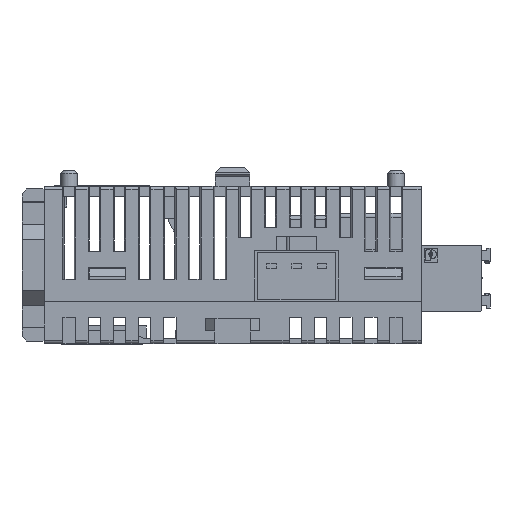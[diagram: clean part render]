
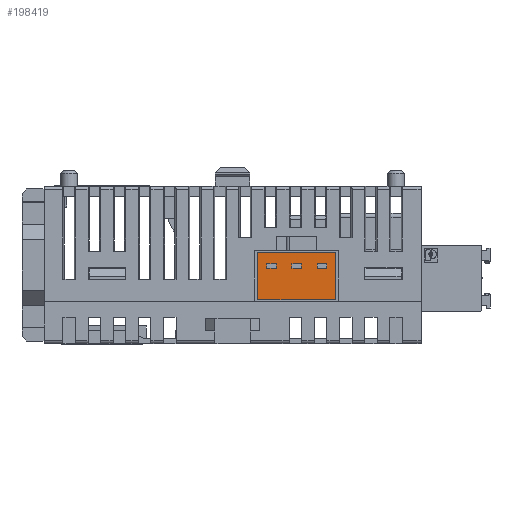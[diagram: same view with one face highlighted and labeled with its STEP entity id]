
A CAD part, front view. The second image highlights one B-rep face of the part: STEP entity #198419.
In plain terms, the highlighted planar face has unit normal (0, -1, 0) as drawn and (0, 0, 1) by its records, which use the part's own axes.
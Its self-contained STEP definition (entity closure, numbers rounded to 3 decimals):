
#1694 = CARTESIAN_POINT ( 'NONE',  ( -0.75, 1.95, 0. ) ) ;
#6795 = CARTESIAN_POINT ( 'NONE',  ( -4.75, 1.95, 0. ) ) ;
#6930 = VECTOR ( 'NONE', #379002, 1000. ) ;
#7046 = CARTESIAN_POINT ( 'NONE',  ( -6.204, 3.75, 0. ) ) ;
#11272 = DIRECTION ( 'NONE',  ( 1., 0., 0. ) ) ;
#13454 = CARTESIAN_POINT ( 'NONE',  ( 4.75, 1.95, 0. ) ) ;
#24417 = EDGE_CURVE ( 'NONE', #105912, #243956, #190857, .T. ) ;
#24770 = DIRECTION ( 'NONE',  ( 0., -1., 0. ) ) ;
#24919 = LINE ( 'NONE', #337857, #300294 ) ;
#25126 = CARTESIAN_POINT ( 'NONE',  ( 3.25, 1.2, 0. ) ) ;
#26129 = DIRECTION ( 'NONE',  ( -1., 0., 0. ) ) ;
#30832 = LINE ( 'NONE', #13454, #65172 ) ;
#42555 = CARTESIAN_POINT ( 'NONE',  ( -4.75, 1.2, 0. ) ) ;
#43933 = DIRECTION ( 'NONE',  ( 1., 0., 0. ) ) ;
#48854 = FACE_BOUND ( 'NONE', #291736, .T. ) ;
#48902 = ORIENTED_EDGE ( 'NONE', *, *, #24417, .F. ) ;
#49259 = CARTESIAN_POINT ( 'NONE',  ( 0.75, 1.95, 0. ) ) ;
#51187 = LINE ( 'NONE', #6795, #6930 ) ;
#53676 = DIRECTION ( 'NONE',  ( 1., 0., 0. ) ) ;
#57773 = ORIENTED_EDGE ( 'NONE', *, *, #386016, .F. ) ;
#58998 = VECTOR ( 'NONE', #64765, 1000. ) ;
#64308 = EDGE_LOOP ( 'NONE', ( #57773, #159991, #121772, #331844 ) ) ;
#64765 = DIRECTION ( 'NONE',  ( 0., -1., 0. ) ) ;
#64858 = ORIENTED_EDGE ( 'NONE', *, *, #242966, .F. ) ;
#65172 = VECTOR ( 'NONE', #78084, 1000. ) ;
#75588 = ORIENTED_EDGE ( 'NONE', *, *, #264526, .T. ) ;
#76272 = VERTEX_POINT ( 'NONE', #25126 ) ;
#78084 = DIRECTION ( 'NONE',  ( 0., 1., 0. ) ) ;
#79431 = CARTESIAN_POINT ( 'NONE',  ( -4.75, 1.2, 0. ) ) ;
#81159 = LINE ( 'NONE', #396053, #395500 ) ;
#83179 = PLANE ( 'NONE',  #243823 ) ;
#88056 = CARTESIAN_POINT ( 'NONE',  ( -6.204, -3.75, 0. ) ) ;
#91170 = ORIENTED_EDGE ( 'NONE', *, *, #137242, .F. ) ;
#91450 = VECTOR ( 'NONE', #165846, 1000. ) ;
#101997 = DIRECTION ( 'NONE',  ( 0., 1., 0. ) ) ;
#102839 = LINE ( 'NONE', #42555, #333679 ) ;
#102927 = FACE_OUTER_BOUND ( 'NONE', #281765, .T. ) ;
#105605 = EDGE_CURVE ( 'NONE', #304841, #105912, #81159, .T. ) ;
#105912 = VERTEX_POINT ( 'NONE', #345057 ) ;
#115157 = DIRECTION ( 'NONE',  ( 0., 1., 0. ) ) ;
#119131 = EDGE_CURVE ( 'NONE', #231782, #119543, #133869, .T. ) ;
#119543 = VERTEX_POINT ( 'NONE', #272881 ) ;
#121772 = ORIENTED_EDGE ( 'NONE', *, *, #243095, .F. ) ;
#125200 = CARTESIAN_POINT ( 'NONE',  ( -0.75, 1.95, 0. ) ) ;
#126869 = DIRECTION ( 'NONE',  ( -1., 0., 0. ) ) ;
#133522 = DIRECTION ( 'NONE',  ( -1., 0., 0. ) ) ;
#133869 = LINE ( 'NONE', #148511, #222030 ) ;
#137242 = EDGE_CURVE ( 'NONE', #243956, #163488, #169083, .T. ) ;
#148284 = CARTESIAN_POINT ( 'NONE',  ( 4.75, 1.95, 0. ) ) ;
#148511 = CARTESIAN_POINT ( 'NONE',  ( 3.25, 1.95, 0. ) ) ;
#149461 = VECTOR ( 'NONE', #126869, 1000. ) ;
#152112 = VERTEX_POINT ( 'NONE', #318727 ) ;
#159991 = ORIENTED_EDGE ( 'NONE', *, *, #306871, .F. ) ;
#163488 = VERTEX_POINT ( 'NONE', #1694 ) ;
#163547 = CARTESIAN_POINT ( 'NONE',  ( -4.75, 1.95, 0. ) ) ;
#163846 = CARTESIAN_POINT ( 'NONE',  ( -0.75, 1.95, 0. ) ) ;
#164497 = CARTESIAN_POINT ( 'NONE',  ( 3.25, 1.95, 0. ) ) ;
#165846 = DIRECTION ( 'NONE',  ( 0., -1., 0. ) ) ;
#168306 = EDGE_CURVE ( 'NONE', #119543, #76272, #302543, .T. ) ;
#169083 = LINE ( 'NONE', #163846, #149461 ) ;
#169412 = ORIENTED_EDGE ( 'NONE', *, *, #119131, .F. ) ;
#171218 = VECTOR ( 'NONE', #115157, 1000. ) ;
#180996 = CARTESIAN_POINT ( 'NONE',  ( 0.75, 1.95, 0. ) ) ;
#184718 = CARTESIAN_POINT ( 'NONE',  ( -0.75, 1.2, 0. ) ) ;
#185207 = EDGE_CURVE ( 'NONE', #152112, #330188, #246025, .T. ) ;
#189865 = LINE ( 'NONE', #7046, #253669 ) ;
#190857 = LINE ( 'NONE', #180996, #171218 ) ;
#190914 = CARTESIAN_POINT ( 'NONE',  ( -6.204, 3.75, 0. ) ) ;
#195808 = DIRECTION ( 'NONE',  ( 0., 1., 0. ) ) ;
#198419 = ADVANCED_FACE ( 'NONE', ( #102927, #392816, #48854, #215901 ), #83179, .T. ) ;
#201825 = VECTOR ( 'NONE', #195808, 1000. ) ;
#204558 = VERTEX_POINT ( 'NONE', #242749 ) ;
#208331 = ORIENTED_EDGE ( 'NONE', *, *, #168306, .F. ) ;
#211949 = ORIENTED_EDGE ( 'NONE', *, *, #105605, .F. ) ;
#215901 = FACE_BOUND ( 'NONE', #292114, .T. ) ;
#218607 = LINE ( 'NONE', #287493, #233267 ) ;
#220188 = ORIENTED_EDGE ( 'NONE', *, *, #185207, .T. ) ;
#221365 = VERTEX_POINT ( 'NONE', #79431 ) ;
#222030 = VECTOR ( 'NONE', #26129, 1000. ) ;
#224815 = VECTOR ( 'NONE', #101997, 1000. ) ;
#230764 = DIRECTION ( 'NONE',  ( -1., 0., 0. ) ) ;
#231782 = VERTEX_POINT ( 'NONE', #148284 ) ;
#233267 = VECTOR ( 'NONE', #11272, 1000. ) ;
#233900 = CARTESIAN_POINT ( 'NONE',  ( -6.204, -3.75, 0. ) ) ;
#236877 = CARTESIAN_POINT ( 'NONE',  ( 0., 0., 0. ) ) ;
#242749 = CARTESIAN_POINT ( 'NONE',  ( -4.75, 1.95, 0. ) ) ;
#242966 = EDGE_CURVE ( 'NONE', #163488, #304841, #314598, .T. ) ;
#243095 = EDGE_CURVE ( 'NONE', #312550, #204558, #255514, .T. ) ;
#243823 = AXIS2_PLACEMENT_3D ( 'NONE', #236877, #334387, #305550 ) ;
#243956 = VERTEX_POINT ( 'NONE', #49259 ) ;
#246025 = LINE ( 'NONE', #260368, #201825 ) ;
#253669 = VECTOR ( 'NONE', #133522, 1000. ) ;
#255514 = LINE ( 'NONE', #163547, #398165 ) ;
#260368 = CARTESIAN_POINT ( 'NONE',  ( 6.204, -3.75, 0. ) ) ;
#264249 = LINE ( 'NONE', #321623, #224815 ) ;
#264526 = EDGE_CURVE ( 'NONE', #319715, #152112, #218607, .T. ) ;
#272881 = CARTESIAN_POINT ( 'NONE',  ( 3.25, 1.95, 0. ) ) ;
#273061 = EDGE_CURVE ( 'NONE', #330188, #279665, #189865, .T. ) ;
#279665 = VERTEX_POINT ( 'NONE', #190914 ) ;
#281765 = EDGE_LOOP ( 'NONE', ( #336291, #75588, #220188, #356819 ) ) ;
#284375 = EDGE_CURVE ( 'NONE', #279665, #319715, #318071, .T. ) ;
#287493 = CARTESIAN_POINT ( 'NONE',  ( -6.204, -3.75, 0. ) ) ;
#291736 = EDGE_LOOP ( 'NONE', ( #211949, #64858, #91170, #48902 ) ) ;
#292114 = EDGE_LOOP ( 'NONE', ( #333352, #208331, #169412, #400759 ) ) ;
#297288 = DIRECTION ( 'NONE',  ( 1., 0., 0. ) ) ;
#300294 = VECTOR ( 'NONE', #53676, 1000. ) ;
#302543 = LINE ( 'NONE', #164497, #91450 ) ;
#303136 = VECTOR ( 'NONE', #24770, 1000. ) ;
#304841 = VERTEX_POINT ( 'NONE', #184718 ) ;
#305550 = DIRECTION ( 'NONE',  ( 1., 0., 0. ) ) ;
#306871 = EDGE_CURVE ( 'NONE', #204558, #221365, #51187, .T. ) ;
#312550 = VERTEX_POINT ( 'NONE', #355407 ) ;
#314340 = CARTESIAN_POINT ( 'NONE',  ( 4.75, 1.2, 0. ) ) ;
#314598 = LINE ( 'NONE', #125200, #58998 ) ;
#315373 = EDGE_CURVE ( 'NONE', #76272, #344800, #24919, .T. ) ;
#318071 = LINE ( 'NONE', #88056, #303136 ) ;
#318727 = CARTESIAN_POINT ( 'NONE',  ( 6.204, -3.75, 0. ) ) ;
#319715 = VERTEX_POINT ( 'NONE', #233900 ) ;
#321623 = CARTESIAN_POINT ( 'NONE',  ( -3.25, 1.95, 0. ) ) ;
#330188 = VERTEX_POINT ( 'NONE', #368000 ) ;
#331780 = VERTEX_POINT ( 'NONE', #335995 ) ;
#331844 = ORIENTED_EDGE ( 'NONE', *, *, #349513, .F. ) ;
#333352 = ORIENTED_EDGE ( 'NONE', *, *, #315373, .F. ) ;
#333679 = VECTOR ( 'NONE', #43933, 1000. ) ;
#334387 = DIRECTION ( 'NONE',  ( 0., 0., 1. ) ) ;
#335995 = CARTESIAN_POINT ( 'NONE',  ( -3.25, 1.2, 0. ) ) ;
#336291 = ORIENTED_EDGE ( 'NONE', *, *, #284375, .T. ) ;
#337857 = CARTESIAN_POINT ( 'NONE',  ( 3.25, 1.2, 0. ) ) ;
#344800 = VERTEX_POINT ( 'NONE', #314340 ) ;
#345057 = CARTESIAN_POINT ( 'NONE',  ( 0.75, 1.2, 0. ) ) ;
#349513 = EDGE_CURVE ( 'NONE', #331780, #312550, #264249, .T. ) ;
#355407 = CARTESIAN_POINT ( 'NONE',  ( -3.25, 1.95, 0. ) ) ;
#356819 = ORIENTED_EDGE ( 'NONE', *, *, #273061, .T. ) ;
#368000 = CARTESIAN_POINT ( 'NONE',  ( 6.204, 3.75, 0. ) ) ;
#379002 = DIRECTION ( 'NONE',  ( 0., -1., 0. ) ) ;
#386016 = EDGE_CURVE ( 'NONE', #221365, #331780, #102839, .T. ) ;
#388647 = EDGE_CURVE ( 'NONE', #344800, #231782, #30832, .T. ) ;
#392816 = FACE_BOUND ( 'NONE', #64308, .T. ) ;
#395500 = VECTOR ( 'NONE', #297288, 1000. ) ;
#396053 = CARTESIAN_POINT ( 'NONE',  ( -0.75, 1.2, 0. ) ) ;
#398165 = VECTOR ( 'NONE', #230764, 1000. ) ;
#400759 = ORIENTED_EDGE ( 'NONE', *, *, #388647, .F. ) ;
